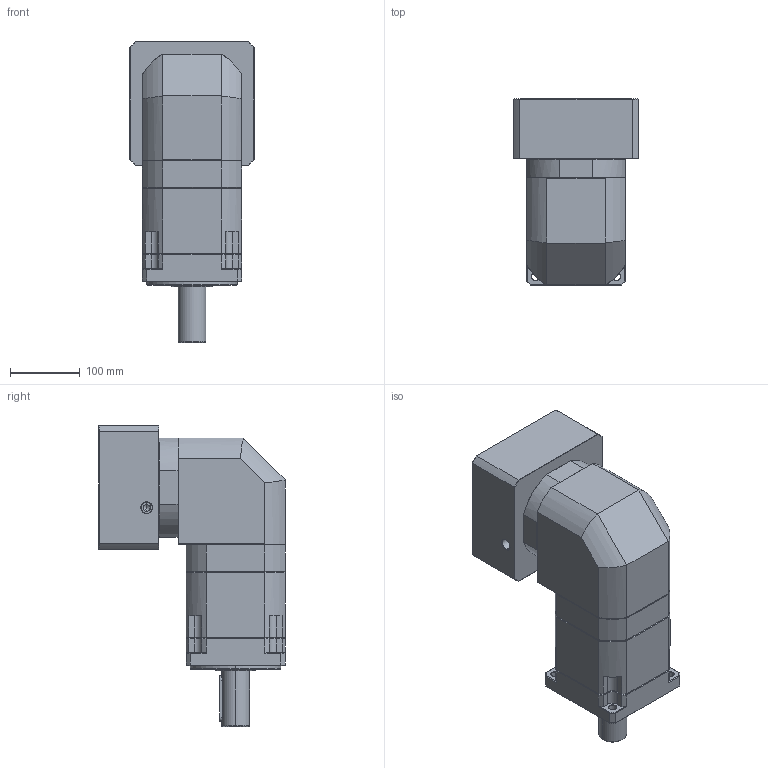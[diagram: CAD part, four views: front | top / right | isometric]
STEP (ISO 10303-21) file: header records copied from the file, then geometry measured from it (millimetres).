
FILE_DESCRIPTION (( 'STEP AP214' ), '1' );
FILE_NAME ('ZBR142A-D40-L3-P2-42-114.3-200-M12.step', '2023-09-02T07:14:27', ( '' ), ( '' ), 'SwSTEP 2.0', 'SolidWorks 2016', '' );
FILE_SCHEMA (( 'AUTOMOTIVE_DESIGN' ));
Length unit declared in the file: millimetre
Products named in the file (1): ZBR142A-D40-L3-P2-42-114.3-200-M12
Bounding box: 178 x 267 x 431.7 mm (x, y, z)
Volume: 8297332.3 mm3; surface area: 502564.7 mm2
Topology: 6 solids, 6 shells, 2322 faces, 6081 edges, 3866 vertices
Faces by surface type: plane 1132, cylinder 418, bspline 410, cone 340, torus 22
Entity records: 129321 total; most frequent: CARTESIAN_POINT 50069, ORIENTED_EDGE 12102, DIRECTION 9564, EDGE_CURVE 6051, VECTOR 3918, LINE 3918, VERTEX_POINT 3866, AXIS2_PLACEMENT_3D 2823
